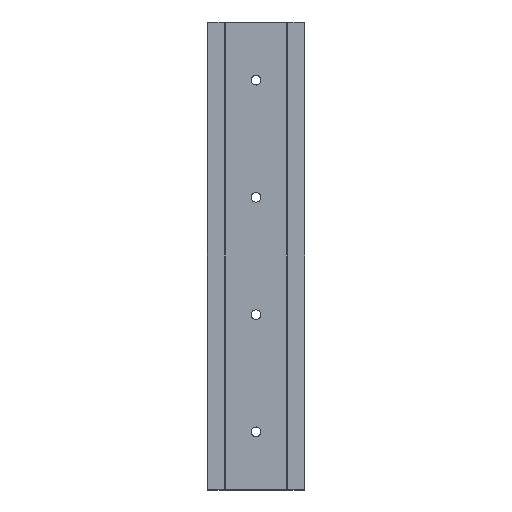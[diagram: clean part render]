
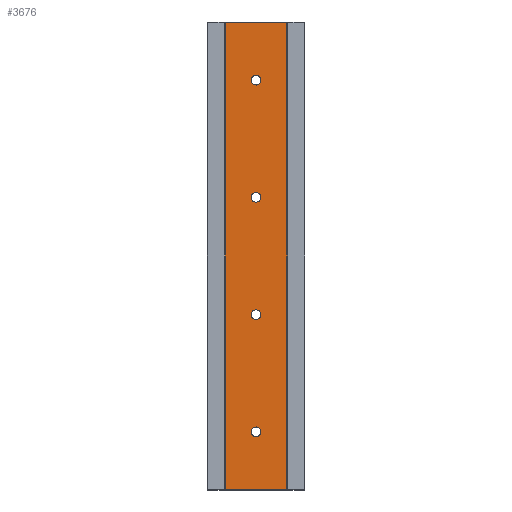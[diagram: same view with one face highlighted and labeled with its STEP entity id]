
A CAD part, left-side view. The second image highlights one B-rep face of the part: STEP entity #3676.
In plain terms, the highlighted planar face has unit normal (-1, 0, 0).
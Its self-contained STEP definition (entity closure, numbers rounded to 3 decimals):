
#159 = CARTESIAN_POINT ( 'NONE',  ( -8.227, 7.48, -37.462 ) ) ;
#315 = DIRECTION ( 'NONE',  ( 0., 0., -1. ) ) ;
#434 = EDGE_LOOP ( 'NONE', ( #4573, #2313 ) ) ;
#442 = CIRCLE ( 'NONE', #10196, 2.5 ) ;
#652 = DIRECTION ( 'NONE',  ( 0., 0., -1. ) ) ;
#831 = CARTESIAN_POINT ( 'NONE',  ( -8.227, 7.48, -34.962 ) ) ;
#1062 = LINE ( 'NONE', #3201, #4486 ) ;
#1098 = AXIS2_PLACEMENT_3D ( 'NONE', #2119, #10660, #7309 ) ;
#1375 = ORIENTED_EDGE ( 'NONE', *, *, #7534, .T. ) ;
#1403 = EDGE_LOOP ( 'NONE', ( #11419, #13728 ) ) ;
#1914 = FACE_BOUND ( 'NONE', #12024, .T. ) ;
#2038 = DIRECTION ( 'NONE',  ( 1., 0., 0. ) ) ;
#2057 = EDGE_CURVE ( 'Defeatured_0_80+Defeatured_0_114+Defeatured_0_115+Defeatured_0_115', #11938, #8371, #6621, .T. ) ;
#2119 = CARTESIAN_POINT ( 'NONE',  ( -8.227, -8.52, 54.788 ) ) ;
#2313 = ORIENTED_EDGE ( 'NONE', *, *, #2057, .T. ) ;
#2320 = CARTESIAN_POINT ( 'NONE',  ( -8.227, 7.48, 25.038 ) ) ;
#2478 = ORIENTED_EDGE ( 'NONE', *, *, #7317, .T. ) ;
#2479 = DIRECTION ( 'NONE',  ( 0., 0., -1. ) ) ;
#2574 = CARTESIAN_POINT ( 'NONE',  ( -8.227, 7.48, -94.962 ) ) ;
#2654 = EDGE_LOOP ( 'NONE', ( #12686, #4235 ) ) ;
#2755 = CIRCLE ( 'NONE', #13417, 2.5 ) ;
#2785 = VERTEX_POINT ( 'NONE', #11326 ) ;
#2913 = DIRECTION ( 'NONE',  ( 0., 0., -1. ) ) ;
#2925 = AXIS2_PLACEMENT_3D ( 'NONE', #8606, #7279, #4929 ) ;
#3016 = EDGE_CURVE ( 'Defeatured_0_80+Defeatured_0_135+Defeatured_0_134+Defeatured_0_134', #9998, #11923, #2755, .T. ) ;
#3034 = CARTESIAN_POINT ( 'NONE',  ( -8.227, 7.48, -152.462 ) ) ;
#3131 = DIRECTION ( 'NONE',  ( 0., 0., 1. ) ) ;
#3201 = CARTESIAN_POINT ( 'NONE',  ( -8.227, -8.22, 54.788 ) ) ;
#3634 = CARTESIAN_POINT ( 'NONE',  ( -8.227, -8.22, -184.412 ) ) ;
#3676 = ADVANCED_FACE ( 'Defeatured_0_80', ( #1914, #4113, #8302, #9651, #10730 ), #9519, .F. ) ;
#3685 = CARTESIAN_POINT ( 'NONE',  ( -8.227, 7.48, -154.962 ) ) ;
#3697 = CARTESIAN_POINT ( 'NONE',  ( -8.227, -8.52, -184.412 ) ) ;
#3908 = LINE ( 'NONE', #3697, #6730 ) ;
#4084 = CARTESIAN_POINT ( 'NONE',  ( -8.227, 23.18, 54.488 ) ) ;
#4113 = FACE_BOUND ( 'NONE', #434, .T. ) ;
#4154 = ORIENTED_EDGE ( 'NONE', *, *, #3016, .T. ) ;
#4235 = ORIENTED_EDGE ( 'NONE', *, *, #8229, .T. ) ;
#4486 = VECTOR ( 'NONE', #3131, 1000. ) ;
#4573 = ORIENTED_EDGE ( 'NONE', *, *, #8426, .T. ) ;
#4668 = AXIS2_PLACEMENT_3D ( 'NONE', #3685, #7949, #10296 ) ;
#4755 = CIRCLE ( 'NONE', #5444, 2.5 ) ;
#4829 = CARTESIAN_POINT ( 'NONE',  ( -8.227, 7.48, -94.962 ) ) ;
#4929 = DIRECTION ( 'NONE',  ( 0., 0., -1. ) ) ;
#5151 = DIRECTION ( 'NONE',  ( 0., 0., -1. ) ) ;
#5202 = CIRCLE ( 'NONE', #9518, 2.5 ) ;
#5297 = CARTESIAN_POINT ( 'NONE',  ( -8.227, 7.48, -97.462 ) ) ;
#5337 = VERTEX_POINT ( 'NONE', #3034 ) ;
#5444 = AXIS2_PLACEMENT_3D ( 'NONE', #2320, #10062, #9995 ) ;
#5459 = DIRECTION ( 'NONE',  ( 0., 1., 0. ) ) ;
#5467 = EDGE_CURVE ( 'Defeatured_0_80+Defeatured_0_93+Defeatured_0_92+Defeatured_0_92', #11152, #9069, #4755, .T. ) ;
#5682 = CARTESIAN_POINT ( 'NONE',  ( -8.227, 7.48, -154.962 ) ) ;
#5951 = VERTEX_POINT ( 'NONE', #7106 ) ;
#5959 = EDGE_CURVE ( 'Defeatured_0_80+Defeatured_0_134+Defeatured_0_135+Defeatured_0_135', #11923, #9998, #442, .T. ) ;
#6031 = CARTESIAN_POINT ( 'NONE',  ( -8.227, 7.48, 22.538 ) ) ;
#6524 = DIRECTION ( 'NONE',  ( 1., 0., 0. ) ) ;
#6551 = ORIENTED_EDGE ( 'NONE', *, *, #10844, .T. ) ;
#6621 = CIRCLE ( 'NONE', #12965, 2.5 ) ;
#6730 = VECTOR ( 'NONE', #8029, 1000. ) ;
#6753 = ORIENTED_EDGE ( 'NONE', *, *, #5959, .T. ) ;
#6892 = DIRECTION ( 'NONE',  ( 1., 0., 0. ) ) ;
#7106 = CARTESIAN_POINT ( 'NONE',  ( -8.227, 23.18, -184.412 ) ) ;
#7125 = CARTESIAN_POINT ( 'NONE',  ( -8.227, 7.48, -92.462 ) ) ;
#7279 = DIRECTION ( 'NONE',  ( 1., 0., 0. ) ) ;
#7309 = DIRECTION ( 'NONE',  ( 0., 1., 0. ) ) ;
#7317 = EDGE_CURVE ( 'Defeatured_0_80+Defeatured_0_60+Defeatured_0_68+Defeatured_0_57', #5951, #12270, #3908, .T. ) ;
#7322 = EDGE_CURVE ( 'Defeatured_0_80+Defeatured_0_68+Defeatured_0_63+Defeatured_0_60', #11644, #5951, #12639, .T. ) ;
#7432 = CARTESIAN_POINT ( 'NONE',  ( -8.227, 7.48, 27.538 ) ) ;
#7463 = CIRCLE ( 'NONE', #2925, 2.5 ) ;
#7534 = EDGE_CURVE ( 'Defeatured_0_80+Defeatured_0_63+Defeatured_0_57+Defeatured_0_68', #2785, #11644, #12068, .T. ) ;
#7840 = CARTESIAN_POINT ( 'NONE',  ( -8.227, 7.48, -157.462 ) ) ;
#7949 = DIRECTION ( 'NONE',  ( 1., 0., 0. ) ) ;
#7965 = DIRECTION ( 'NONE',  ( 0., 0., -1. ) ) ;
#8029 = DIRECTION ( 'NONE',  ( 0., -1., 0. ) ) ;
#8120 = CARTESIAN_POINT ( 'NONE',  ( -8.227, 7.48, -32.462 ) ) ;
#8229 = EDGE_CURVE ( 'Defeatured_0_80+Defeatured_0_92+Defeatured_0_93+Defeatured_0_93', #9069, #11152, #7463, .T. ) ;
#8302 = FACE_BOUND ( 'NONE', #1403, .T. ) ;
#8371 = VERTEX_POINT ( 'NONE', #159 ) ;
#8426 = EDGE_CURVE ( 'Defeatured_0_80+Defeatured_0_115+Defeatured_0_114+Defeatured_0_114', #8371, #11938, #5202, .T. ) ;
#8606 = CARTESIAN_POINT ( 'NONE',  ( -8.227, 7.48, 25.038 ) ) ;
#8839 = EDGE_CURVE ( 'Defeatured_0_80+Defeatured_0_106+Defeatured_0_107+Defeatured_0_107', #5337, #9717, #12701, .T. ) ;
#8878 = EDGE_CURVE ( 'Defeatured_0_80+Defeatured_0_107+Defeatured_0_106+Defeatured_0_106', #9717, #5337, #12018, .T. ) ;
#9069 = VERTEX_POINT ( 'NONE', #7432 ) ;
#9072 = AXIS2_PLACEMENT_3D ( 'NONE', #5682, #6524, #2479 ) ;
#9518 = AXIS2_PLACEMENT_3D ( 'NONE', #10096, #6892, #7965 ) ;
#9519 = PLANE ( 'NONE',  #1098 ) ;
#9651 = FACE_BOUND ( 'NONE', #2654, .T. ) ;
#9717 = VERTEX_POINT ( 'NONE', #7840 ) ;
#9995 = DIRECTION ( 'NONE',  ( 0., 0., -1. ) ) ;
#9998 = VERTEX_POINT ( 'NONE', #5297 ) ;
#10062 = DIRECTION ( 'NONE',  ( 1., 0., 0. ) ) ;
#10096 = CARTESIAN_POINT ( 'NONE',  ( -8.227, 7.48, -34.962 ) ) ;
#10196 = AXIS2_PLACEMENT_3D ( 'NONE', #4829, #13494, #652 ) ;
#10296 = DIRECTION ( 'NONE',  ( 0., 0., -1. ) ) ;
#10660 = DIRECTION ( 'NONE',  ( 1., 0., 0. ) ) ;
#10730 = FACE_OUTER_BOUND ( 'NONE', #11857, .T. ) ;
#10844 = EDGE_CURVE ( 'Defeatured_0_80+Defeatured_0_57+Defeatured_0_60+Defeatured_0_63', #12270, #2785, #1062, .T. ) ;
#11072 = CARTESIAN_POINT ( 'NONE',  ( -8.227, -8.52, 54.488 ) ) ;
#11152 = VERTEX_POINT ( 'NONE', #6031 ) ;
#11326 = CARTESIAN_POINT ( 'NONE',  ( -8.227, -8.22, 54.488 ) ) ;
#11419 = ORIENTED_EDGE ( 'NONE', *, *, #8878, .T. ) ;
#11644 = VERTEX_POINT ( 'NONE', #4084 ) ;
#11857 = EDGE_LOOP ( 'NONE', ( #2478, #6551, #1375, #12557 ) ) ;
#11923 = VERTEX_POINT ( 'NONE', #7125 ) ;
#11938 = VERTEX_POINT ( 'NONE', #8120 ) ;
#12018 = CIRCLE ( 'NONE', #4668, 2.5 ) ;
#12024 = EDGE_LOOP ( 'NONE', ( #4154, #6753 ) ) ;
#12027 = DIRECTION ( 'NONE',  ( 1., 0., 0. ) ) ;
#12068 = LINE ( 'NONE', #11072, #12180 ) ;
#12180 = VECTOR ( 'NONE', #5459, 1000. ) ;
#12270 = VERTEX_POINT ( 'NONE', #3634 ) ;
#12557 = ORIENTED_EDGE ( 'NONE', *, *, #7322, .T. ) ;
#12635 = VECTOR ( 'NONE', #2913, 1000. ) ;
#12639 = LINE ( 'NONE', #12782, #12635 ) ;
#12686 = ORIENTED_EDGE ( 'NONE', *, *, #5467, .T. ) ;
#12701 = CIRCLE ( 'NONE', #9072, 2.5 ) ;
#12782 = CARTESIAN_POINT ( 'NONE',  ( -8.227, 23.18, 54.788 ) ) ;
#12965 = AXIS2_PLACEMENT_3D ( 'NONE', #831, #2038, #5151 ) ;
#13417 = AXIS2_PLACEMENT_3D ( 'NONE', #2574, #12027, #315 ) ;
#13494 = DIRECTION ( 'NONE',  ( 1., 0., 0. ) ) ;
#13728 = ORIENTED_EDGE ( 'NONE', *, *, #8839, .T. ) ;
